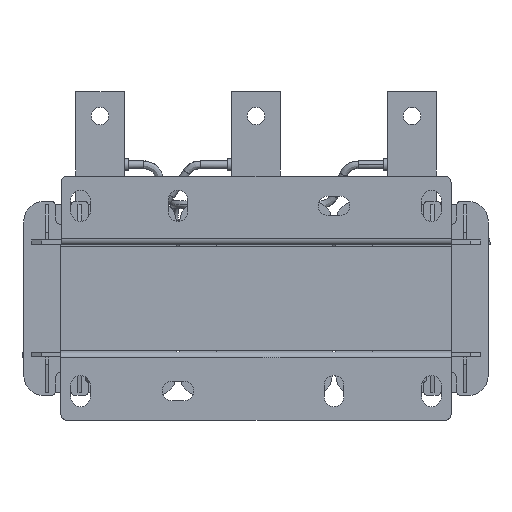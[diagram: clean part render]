
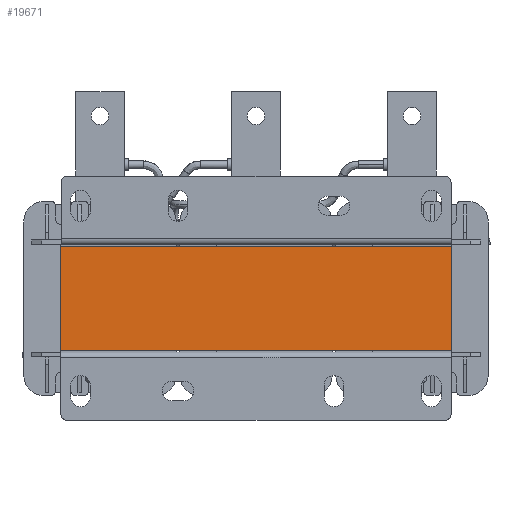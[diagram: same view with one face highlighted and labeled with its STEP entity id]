
A CAD part, front view. The second image highlights one B-rep face of the part: STEP entity #19671.
In plain terms, the highlighted planar face has unit normal (0, -1, 0).
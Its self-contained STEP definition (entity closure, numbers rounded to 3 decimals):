
#1146 = VERTEX_POINT ( 'NONE', #20476 ) ;
#2695 = EDGE_CURVE ( 'NONE', #26816, #19374, #29670, .T. ) ;
#3603 = DIRECTION ( 'NONE',  ( 1., 0., 0. ) ) ;
#4581 = VECTOR ( 'NONE', #37162, 1000. ) ;
#6023 = LINE ( 'NONE', #22450, #4581 ) ;
#10950 = VECTOR ( 'NONE', #33985, 1000. ) ;
#11444 = CARTESIAN_POINT ( 'NONE',  ( 100., -101., 53. ) ) ;
#11567 = DIRECTION ( 'NONE',  ( 0., 1., 0. ) ) ;
#15695 = FACE_OUTER_BOUND ( 'NONE', #30594, .T. ) ;
#16508 = VECTOR ( 'NONE', #3603, 1000. ) ;
#16817 = CARTESIAN_POINT ( 'NONE',  ( -100., -101., 0. ) ) ;
#17415 = CARTESIAN_POINT ( 'NONE',  ( 100., -101., 0. ) ) ;
#18541 = LINE ( 'NONE', #11444, #10950 ) ;
#19168 = AXIS2_PLACEMENT_3D ( 'NONE', #38213, #11567, #26812 ) ;
#19374 = VERTEX_POINT ( 'NONE', #27439 ) ;
#19671 = ADVANCED_FACE ( 'NONE', ( #15695 ), #23518, .F. ) ;
#20476 = CARTESIAN_POINT ( 'NONE',  ( -100., -101., 0. ) ) ;
#22450 = CARTESIAN_POINT ( 'NONE',  ( -100., -101., 53. ) ) ;
#23518 = PLANE ( 'NONE',  #19168 ) ;
#25379 = LINE ( 'NONE', #16817, #38687 ) ;
#26812 = DIRECTION ( 'NONE',  ( 0., 0., 1. ) ) ;
#26816 = VERTEX_POINT ( 'NONE', #49138 ) ;
#27439 = CARTESIAN_POINT ( 'NONE',  ( 100., -101., 53. ) ) ;
#29670 = LINE ( 'NONE', #34471, #16508 ) ;
#30594 = EDGE_LOOP ( 'NONE', ( #32735, #47166, #46957, #37781 ) ) ;
#32735 = ORIENTED_EDGE ( 'NONE', *, *, #40405, .F. ) ;
#33985 = DIRECTION ( 'NONE',  ( 0., 0., -1. ) ) ;
#34471 = CARTESIAN_POINT ( 'NONE',  ( 0., -101., 53. ) ) ;
#36033 = VERTEX_POINT ( 'NONE', #17415 ) ;
#37162 = DIRECTION ( 'NONE',  ( 0., 0., 1. ) ) ;
#37781 = ORIENTED_EDGE ( 'NONE', *, *, #45137, .F. ) ;
#38213 = CARTESIAN_POINT ( 'NONE',  ( -100., -101., 53. ) ) ;
#38687 = VECTOR ( 'NONE', #47644, 1000. ) ;
#39974 = EDGE_CURVE ( 'NONE', #1146, #26816, #6023, .T. ) ;
#40405 = EDGE_CURVE ( 'NONE', #19374, #36033, #18541, .T. ) ;
#45137 = EDGE_CURVE ( 'NONE', #36033, #1146, #25379, .T. ) ;
#46957 = ORIENTED_EDGE ( 'NONE', *, *, #39974, .F. ) ;
#47166 = ORIENTED_EDGE ( 'NONE', *, *, #2695, .F. ) ;
#47644 = DIRECTION ( 'NONE',  ( -1., 0., 0. ) ) ;
#49138 = CARTESIAN_POINT ( 'NONE',  ( -100., -101., 53. ) ) ;
